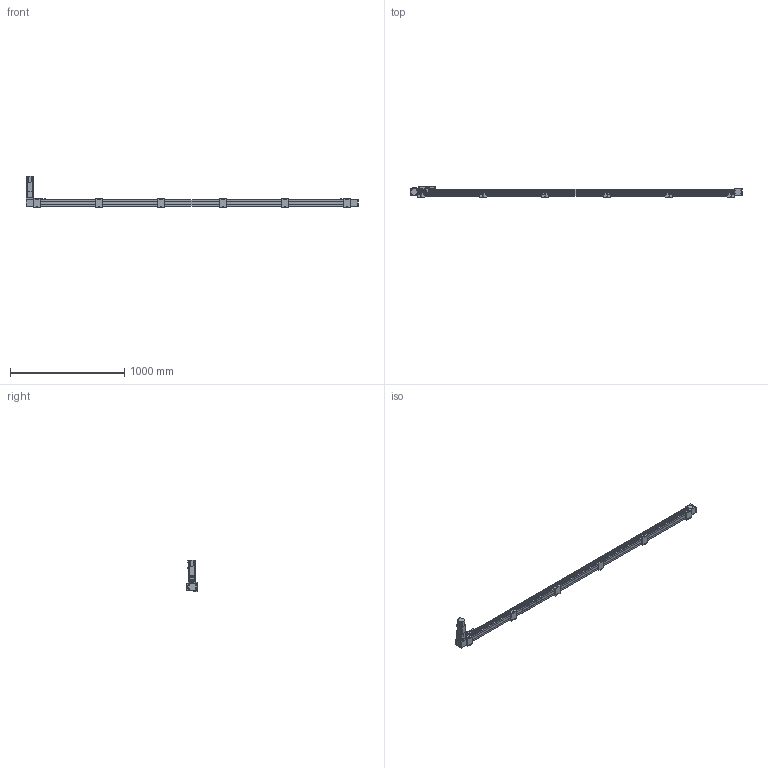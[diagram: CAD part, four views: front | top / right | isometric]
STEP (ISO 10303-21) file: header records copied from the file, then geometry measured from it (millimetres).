
FILE_DESCRIPTION(/* description */ ('STEP AP203'),/* implementation_level */ '2;1');
FILE_NAME(/* name */ 'SK60-P13-S2600-BL-T40-C1-N(0)',/* time_stamp */ '2023-04-06T03:38:05+02:00',/* author */ ('License CC BY-ND 4.0'),/* organization */ ('CADENAS'),/* preprocessor_version */ 'ST-DEVELOPER v19.3',/* originating_system */ 'PARTsolutions',/* authorisation */ ' ');
FILE_SCHEMA (('CONFIG_CONTROL_DESIGN'));
Length unit declared in the file: millimetre
Products named in the file (11): SK60-P13-S2600-BL-T40-C1-N(0); PSC140-sensor; SK60-S450_seat; SK60-S450-BL-C1_slider; SK60_body3; SK60_body6; SK60-BL_body2; T40-p1; SK60_body5; SK60_body4; SK60-S2600-BL-C1_body
Assembly tree (21 placements, depth 2):
  SK60-P13-S2600-BL-T40-C1-N(0)
    PSC140-sensor  x3
    SK60-S450_seat  x6
    SK60-S450-BL-C1_slider
    SK60_body3  x3
    SK60_body6  x2
    SK60-BL_body2  x2
    T40-p1
    SK60_body5
    SK60_body4
    SK60-S2600-BL-C1_body
Bounding box: 2900 x 90 x 278.2 mm (x, y, z)
Volume: 10482386.9 mm3; surface area: 1281454.9 mm2
Topology: 21 solids, 25 shells, 1010 faces, 2501 edges, 1650 vertices
Faces by surface type: plane 640, cylinder 330, cone 38, torus 2
Full cylindrical faces by diameter (mm): 2.8 x3, 3.3 x4, 4.2 x8, 4.5 x26, 4.6 x3, 4.917 x32, 5 x2, 5.478 x4, 5.5 x35, 6.5 x12, 8 x4, 8.5 x4, 9.988 x4, 10 x24, 13.556 x1, 14 x1, 14.586 x1, 19.692 x1, 38.432 x2, 43 x1, 44 x3, 47 x2, 50 x2
Entity records: 19403 total; most frequent: DIRECTION 3300, CARTESIAN_POINT 3293, ORIENTED_EDGE 3050, EDGE_CURVE 1525, AXIS2_PLACEMENT_3D 1104, LINE 1092, VECTOR 1092, VERTEX_POINT 1077
